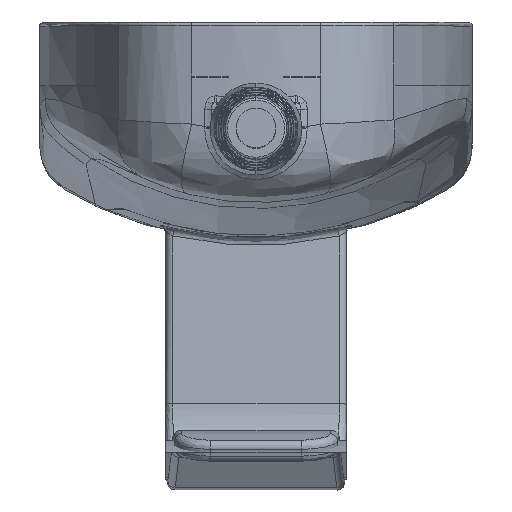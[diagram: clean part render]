
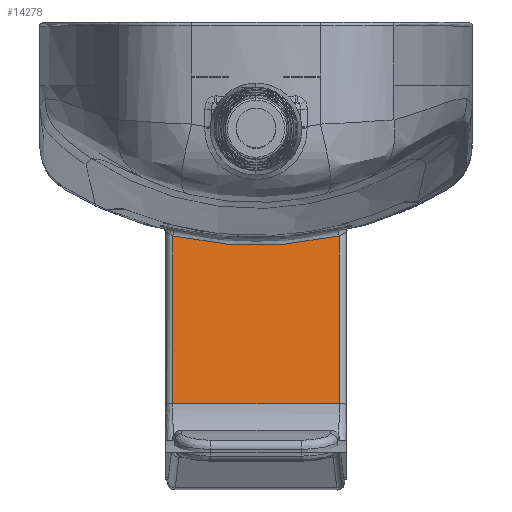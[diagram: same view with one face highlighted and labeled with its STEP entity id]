
A CAD part, top view. The second image highlights one B-rep face of the part: STEP entity #14278.
In plain terms, the highlighted planar face has unit normal (0, 0.101, 0.995).
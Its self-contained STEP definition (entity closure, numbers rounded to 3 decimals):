
#117=DIRECTION('',(0.,0.995,-0.101));
#118=VECTOR('',#117,23.392);
#119=CARTESIAN_POINT('',(41.526,-21.913,-108.177));
#120=LINE('',#119,#118);
#149=DIRECTION('',(1.,0.,0.));
#150=VECTOR('',#149,23.051);
#151=CARTESIAN_POINT('',(18.474,-21.913,-108.177));
#152=LINE('',#151,#150);
#503=CARTESIAN_POINT('',(18.474,1.36,-110.535));
#504=CARTESIAN_POINT('',(21.011,0.777,-110.476));
#505=CARTESIAN_POINT('',(26.101,0.,
-110.398));
#506=CARTESIAN_POINT('',(33.899,0.,
-110.398));
#507=CARTESIAN_POINT('',(38.989,0.777,-110.476));
#508=CARTESIAN_POINT('',(41.526,1.36,-110.535));
#510=DIRECTION('',(0.,0.995,-0.101));
#511=VECTOR('',#510,23.392);
#512=CARTESIAN_POINT('',(18.474,-21.913,-108.177));
#513=LINE('',#512,#511);
#517=CARTESIAN_POINT('',(18.474,1.36,-110.535));
#12280=VERTEX_POINT('',#517);
#12281=VERTEX_POINT('',#508);
#12282=CARTESIAN_POINT('',(41.526,-21.913,
-108.177));
#12283=VERTEX_POINT('',#12282);
#12284=CARTESIAN_POINT('',(18.474,-21.913,
-108.177));
#12285=VERTEX_POINT('',#12284);
#14266=CARTESIAN_POINT('',(30.,-10.276,
-109.356));
#14267=DIRECTION('',(0.,0.101,0.995));
#14268=DIRECTION('',(0.,0.995,-0.101));
#14269=AXIS2_PLACEMENT_3D('',#14266,#14267,#14268);
#14270=PLANE('',#14269);
#14271=ORIENTED_EDGE('',*,*,#14257,.T.);
#14272=ORIENTED_EDGE('',*,*,#13522,.F.);
#14273=ORIENTED_EDGE('',*,*,#13614,.F.);
#14275=ORIENTED_EDGE('',*,*,#14274,.T.);
#14276=EDGE_LOOP('',(#14271,#14272,#14273,#14275));
#14277=FACE_OUTER_BOUND('',#14276,.F.);
#14278=ADVANCED_FACE('',(#14277),#14270,.T.);
#509=B_SPLINE_CURVE_WITH_KNOTS('',3,(#503,#504,#505,#506,#507,#508),
.UNSPECIFIED.,.F.,.F.,(4,1,1,4),(0.,0.333,0.667,1.),
.UNSPECIFIED.);
#13522=EDGE_CURVE('',#12283,#12281,#120,.T.);
#13614=EDGE_CURVE('',#12285,#12283,#152,.T.);
#14257=EDGE_CURVE('',#12280,#12281,#509,.T.);
#14274=EDGE_CURVE('',#12285,#12280,#513,.T.);
